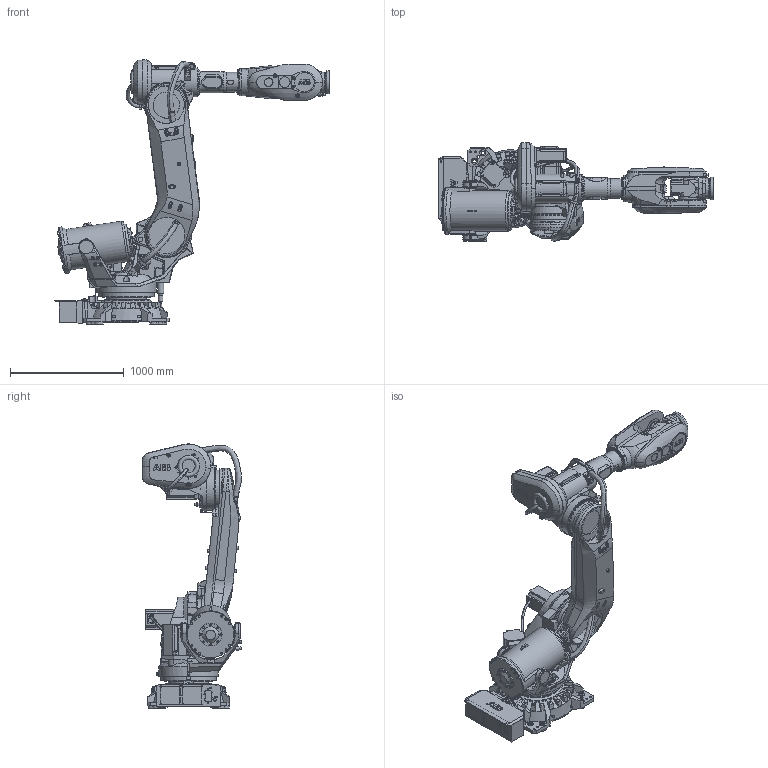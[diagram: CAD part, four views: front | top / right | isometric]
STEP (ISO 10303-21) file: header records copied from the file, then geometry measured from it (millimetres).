
FILE_DESCRIPTION(/* description */ (''),/* implementation_level */ '2;1');
FILE_NAME(/* name */ 'F:\组装完成的图纸\IRB 6700\IRB 6700-300-2.7\IRB6700-300-2.7.stp',/* time_stamp */ '2023-10-22T10:37:34+08:00',/* author */ ('Administrator'),/* organization */ (''),/* preprocessor_version */ 'ST-DEVELOPER v16.5',/* originating_system */ 'Autodesk Inventor 2017',/* authorisation */ '');
FILE_SCHEMA (('AUTOMOTIVE_DESIGN { 1 0 10303 214 3 1 1 }'));
Length unit declared in the file: millimetre
Products named in the file (16): 部件1; IRB6700_300-270_IRC5_rev00_CYLINDER_CAD; IRB6700_300-270_IRC5_rev00_LINK02_CAD; IRB6700_300-270_IRC5_rev00_LINK02m_CABLE; IRB6700_300-270_IRC5_rev00_LOGO1_CAD; IRB6700_300-270_IRC5_rev00_LOGO2_CAD; IRB6700_300-270_IRC5_rev00_LOGO3_CAD; IRB6700_300-270_IRC5_rev00_ROD_CAD; IRB6700_300-270_IRC5_rev01_BASE_CAD; IRB6700_300-270_IRC5_rev01_LINK05_CAD; IRB6700_300-270_IRC5_rev01_LINK06_CAD; IRB6700_300-270_IRC5_rev02_LINK01_CAD; IRB6700_300-270_IRC5_rev02_LINK01m_CABLE; IRB6700_300-270_IRC5_rev02_LINK03_CAD; IRB6700_300-270_IRC5_rev02_LINK03m_CABLE; IRB6700_300-270_IRC5_rev02_LINK04_CAD
Assembly tree (15 placements, depth 2):
  部件1
    IRB6700_300-270_IRC5_rev00_CYLINDER_CAD
    IRB6700_300-270_IRC5_rev00_LINK02_CAD
    IRB6700_300-270_IRC5_rev00_LINK02m_CABLE
    IRB6700_300-270_IRC5_rev00_LOGO1_CAD
    IRB6700_300-270_IRC5_rev00_LOGO2_CAD
    IRB6700_300-270_IRC5_rev00_LOGO3_CAD
    IRB6700_300-270_IRC5_rev00_ROD_CAD
    IRB6700_300-270_IRC5_rev01_BASE_CAD
    IRB6700_300-270_IRC5_rev01_LINK05_CAD
    IRB6700_300-270_IRC5_rev01_LINK06_CAD
    IRB6700_300-270_IRC5_rev02_LINK01_CAD
    IRB6700_300-270_IRC5_rev02_LINK01m_CABLE
    IRB6700_300-270_IRC5_rev02_LINK03_CAD
    IRB6700_300-270_IRC5_rev02_LINK03m_CABLE
    IRB6700_300-270_IRC5_rev02_LINK04_CAD
Bounding box: 2414.5 x 869.57 x 2320.8 mm (x, y, z)
Volume: 323778246.7 mm3; surface area: 13538695.3 mm2
Topology: 14 solids, 18 shells, 4229 faces, 10861 edges, 7147 vertices
Faces by surface type: plane 2815, cylinder 701, cone 360, bspline 345, torus 6, sphere 2
Full cylindrical faces by diameter (mm): 5 x13, 5.45 x1, 6.5 x2, 6.6 x4, 6.8 x22, 7 x2, 8.3 x4, 8.5 x8, 9 x3, 10.2 x37, 11.05 x2, 11.3 x2, 11.363 x1, 11.366 x1, 12 x10, 13 x3, 13.27 x8, 14 x5, 16 x14, 16.27 x24, 17 x4, 17.5 x8, 18 x2, 18.27 x56, 19 x49, 20 x2, 20.614 x3, 20.883 x1, 21.2 x1, 22 x2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
Entity records: 241356 total; most frequent: CARTESIAN_POINT 141892, ORIENTED_EDGE 20472, DIRECTION 19062, EDGE_CURVE 10239, VERTEX_POINT 7061, AXIS2_PLACEMENT_3D 6365, LINE 6332, VECTOR 6332
